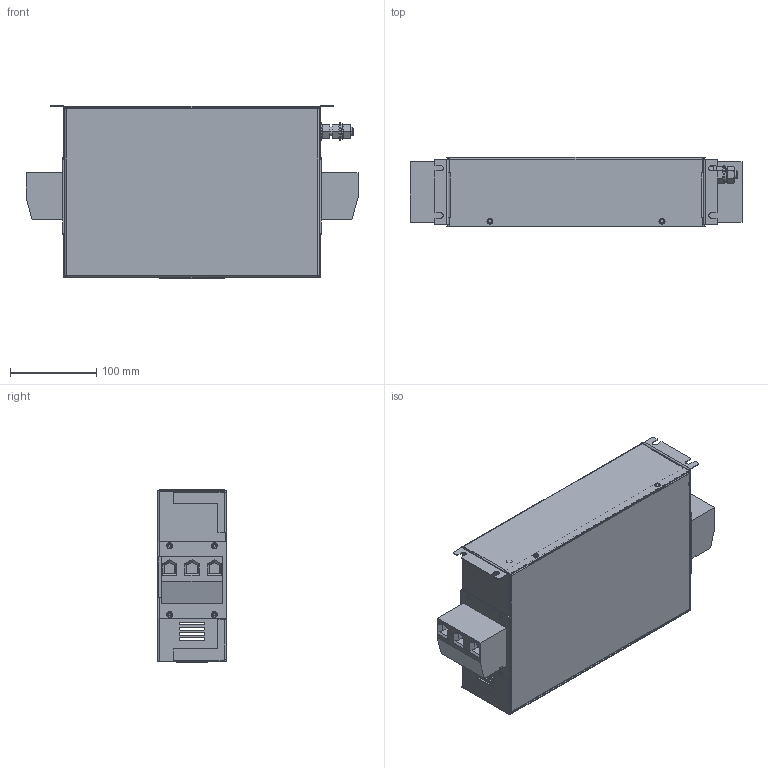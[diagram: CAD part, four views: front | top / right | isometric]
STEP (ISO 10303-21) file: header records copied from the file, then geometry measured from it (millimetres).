
FILE_DESCRIPTION((''),'2;1');
FILE_NAME('PRT0006','2021-11-18T',('EE7046'),(''),'CREO PARAMETRIC BY PTC INC, 2018220','CREO PARAMETRIC BY PTC INC, 2018220','');
FILE_SCHEMA(('AUTOMOTIVE_DESIGN { 1 0 10303 214 1 1 1 1 }'));
Length unit declared in the file: millimetre
Products named in the file (1): PRT0006
Bounding box: 386 x 80 x 200.3 mm (x, y, z)
Volume: 528963.7 mm3; surface area: 445259.2 mm2
Topology: 1 solids, 37 shells, 1392 faces, 3404 edges, 2181 vertices
Faces by surface type: plane 832, cylinder 412, cone 110, bspline 34, torus 4
Entity records: 42575 total; most frequent: CARTESIAN_POINT 8851, DIRECTION 7090, ORIENTED_EDGE 6804, EDGE_CURVE 3402, AXIS2_PLACEMENT_3D 2438, VECTOR 2214, LINE 2214, VERTEX_POINT 2181
